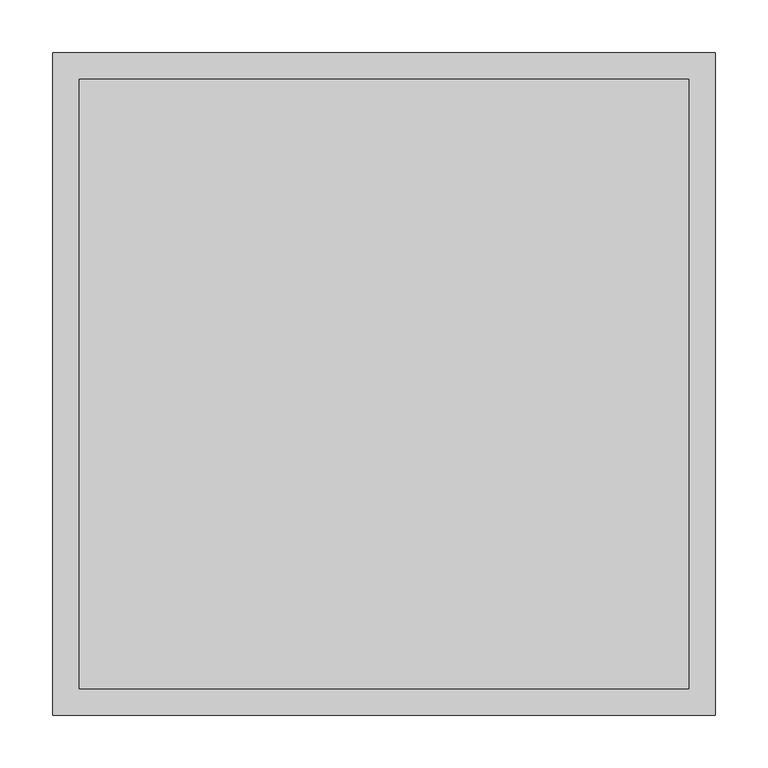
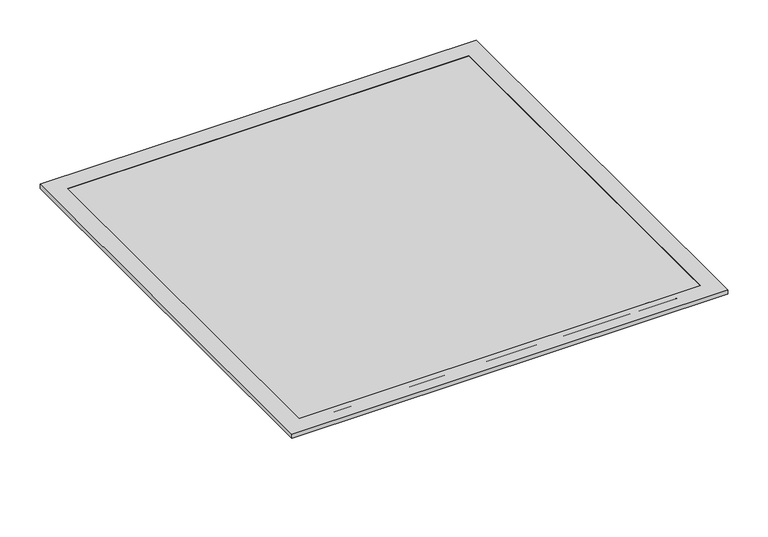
"""IFC4 building model written with IfcOpenShell, lengths in millimetres: air terminal geometry, Titus-Round_Neck_Supply_Diffuser-PCS_Surface_Mount : PCS AA-10_24x24 - 4-WAY."""

import ifcopenshell
import ifcopenshell.guid

model = None  # the IFC model being written
_history = None  # IfcOwnerHistory: only IFC2X3 demands one
_inside = {}  # id of a spatial element -> (the spatial element, [elements in it])
_under = {}  # id of a project, library or spatial element -> (it, [spatial elements below it])
_declared = {}  # id of a project -> (the project, [libraries it declares])
_typed = {}  # id of a type object -> (the type object, [elements of that type])
_made_of = {}  # id of a material, layer set ... -> (it, [elements and type objects made of it])


def new_model(schema):
    """Start an empty IFC model of exactly this schema.

    Asked for "IFC4X3", IfcOpenShell would pick the latest addendum, in which some entities
    have other attributes; the version numbers below select the first issue.
    IFC2X3 requires an IfcOwnerHistory on every rooted entity: one is made here for all.
    """
    global model, _history
    if schema == "IFC4X3":
        model = ifcopenshell.file(schema_version=(4, 3, 0, 0))
    else:
        model = ifcopenshell.file(schema=schema)
    _inside.clear()
    _under.clear()
    _declared.clear()
    _typed.clear()
    _made_of.clear()
    _history = None
    if model.schema == "IFC2X3":
        org = make("IfcOrganization", Name="unknown")
        user = make(
            "IfcPersonAndOrganization",
            ThePerson=make("IfcPerson", FamilyName="unknown"),
            TheOrganization=org,
        )
        app = make(
            "IfcApplication",
            ApplicationDeveloper=org,
            Version="unknown",
            ApplicationFullName="unknown",
            ApplicationIdentifier="unknown",
        )
        _history = make(
            "IfcOwnerHistory",
            OwningUser=user,
            OwningApplication=app,
            ChangeAction="ADDED",
            CreationDate=0,
        )
    return model


def make(cls, **values):
    """One entity of the class cls with the attributes given. An attribute that is None is left unset."""
    return model.create_entity(
        cls, **{name: value for name, value in values.items() if value is not None}
    )


def rooted(cls, **values):
    """An entity with a GlobalId (a new one), such as an element, a storey or a relation."""
    return make(cls, GlobalId=ifcopenshell.guid.new(), OwnerHistory=_history, **values)


def si_unit(unit_type, name, prefix=None):
    """IfcSIUnit, for example si_unit("LENGTHUNIT", "METRE", prefix="MILLI")."""
    return make("IfcSIUnit", UnitType=unit_type, Prefix=prefix, Name=name)


def assignment(units):
    """IfcUnitAssignment: the units of a project."""
    return None if units is None else make("IfcUnitAssignment", Units=units)


def point(xyz):
    """IfcCartesianPoint."""
    return None if xyz is None else make("IfcCartesianPoint", Coordinates=xyz)


def direction(xyz):
    """IfcDirection."""
    return None if xyz is None else make("IfcDirection", DirectionRatios=xyz)


def frame(location, z_axis=None, x_axis=None):
    """IfcAxis2Placement3D, a coordinate frame: its origin and axes. An axis left out is left unset."""
    return make(
        "IfcAxis2Placement3D",
        Location=point(location),
        Axis=direction(z_axis),
        RefDirection=direction(x_axis),
    )


def frame_2d(location, x_axis=None):
    """IfcAxis2Placement2D, a coordinate frame in the plane: its origin and x axis."""
    return make(
        "IfcAxis2Placement2D", Location=point(location), RefDirection=direction(x_axis)
    )


def origin():
    """The frame at (0, 0, 0) with its axes left unset."""
    return frame((0.0, 0.0, 0.0))


def origin_2d():
    """The frame at (0, 0) in the plane with its x axis left unset."""
    return frame_2d((0.0, 0.0))


def place(relative_to, where):
    """IfcLocalPlacement: puts the frame where relative to a parent placement (None: the world)."""
    return make(
        "IfcLocalPlacement", PlacementRelTo=relative_to, RelativePlacement=where
    )


def context(
    kind, dimensions, precision=None, world=None, true_north=None, identifier=None
):
    """IfcGeometricRepresentationContext, for example the 3D "Model" context."""
    return make(
        "IfcGeometricRepresentationContext",
        ContextIdentifier=identifier,
        ContextType=kind,
        CoordinateSpaceDimension=dimensions,
        Precision=precision,
        WorldCoordinateSystem=world,
        TrueNorth=true_north,
    )


def project(units=None, contexts=None):
    """IfcProject with its units and contexts."""
    return rooted(
        "IfcProject",
        Name="project",
        RepresentationContexts=contexts,
        UnitsInContext=assignment(units),
    )


def spatial(cls, under=None, at=None, **own):
    """A site, building, storey or space (cls), placed at a placement, below another one or the project."""
    s = rooted(cls, ObjectPlacement=at, **own)
    if under is not None:
        _under.setdefault(under.id(), (under, []))[1].append(s)
    return s


def polyline(points):
    """IfcPolyline through the points."""
    return make("IfcPolyline", Points=[point(p) for p in points])


def circle_curve(where, radius):
    """IfcCircle in the frame where."""
    return make("IfcCircle", Position=where, Radius=radius)


def trimmed(basis, trim1, trim2, sense, master):
    """IfcTrimmedCurve: the piece of a basis curve between two trims."""
    return make(
        "IfcTrimmedCurve",
        BasisCurve=basis,
        Trim1=trim1,
        Trim2=trim2,
        SenseAgreement=sense,
        MasterRepresentation=master,
    )


def segment(curve, same_sense, transition):
    """IfcCompositeCurveSegment."""
    return make(
        "IfcCompositeCurveSegment",
        Transition=transition,
        SameSense=same_sense,
        ParentCurve=curve,
    )


def composite_curve(segments, self_intersect=None):
    """IfcCompositeCurve: segments joined end to end."""
    return make("IfcCompositeCurve", Segments=segments, SelfIntersect=self_intersect)


def outline(outer, holes=None, kind="AREA"):
    """IfcArbitraryClosedProfileDef: a profile drawn as a closed curve; with holes, ...WithVoids."""
    if holes is None:
        return make("IfcArbitraryClosedProfileDef", ProfileType=kind, OuterCurve=outer)
    return make(
        "IfcArbitraryProfileDefWithVoids",
        ProfileType=kind,
        OuterCurve=outer,
        InnerCurves=holes,
    )


def extrude(swept, where, along, depth):
    """IfcExtrudedAreaSolid: the profile swept, set in the frame where, extruded along a direction by depth."""
    return make(
        "IfcExtrudedAreaSolid",
        SweptArea=swept,
        Position=where,
        ExtrudedDirection=direction(along),
        Depth=depth,
    )


def faces_of(points, faces, orient=None, outer=None):
    """IfcFace entities. A face is a list of loops; a loop is a list of indices into points, from 0.

    orient and outer hold one flag for each loop. By default every Orientation is true, the
    first loop of a face is its IfcFaceOuterBound and the others are IfcFaceBound.
    """
    made = []
    for i, loops in enumerate(faces):
        bounds = []
        for j, loop in enumerate(loops):
            is_outer = j == 0 if outer is None else outer[i][j]
            bounds.append(
                make(
                    "IfcFaceOuterBound" if is_outer else "IfcFaceBound",
                    Bound=make("IfcPolyLoop", Polygon=[points[k] for k in loop]),
                    Orientation=True if orient is None else orient[i][j],
                )
            )
        made.append(make("IfcFace", Bounds=bounds))
    return made


def faceted_brep(points, faces, orient=None, outer=None, voids=None):
    """IfcFacetedBrep: a solid bounded by flat faces; with voids (closed shells), ...WithVoids."""
    shared = [point(p) for p in points]
    hull = make("IfcClosedShell", CfsFaces=faces_of(shared, faces, orient, outer))
    if voids is None:
        return make("IfcFacetedBrep", Outer=hull)
    return make(
        "IfcFacetedBrepWithVoids",
        Outer=hull,
        Voids=[
            make(cls, CfsFaces=faces_of(shared, fs, o, b)) for cls, fs, o, b in voids
        ],
    )


def shape(context_of_items, identifier, shape_type, items):
    """IfcShapeRepresentation: the items that make up one representation, for example the "Body"."""
    return make(
        "IfcShapeRepresentation",
        ContextOfItems=context_of_items,
        RepresentationIdentifier=identifier,
        RepresentationType=shape_type,
        Items=items,
    )


def source(mapping_origin, context_of_items, identifier, shape_type, items):
    """IfcRepresentationMap: a shape defined once, which mapped items show again and again."""
    return make(
        "IfcRepresentationMap",
        MappingOrigin=mapping_origin,
        MappedRepresentation=shape(context_of_items, identifier, shape_type, items),
    )


def transform(
    local_origin,
    x_axis=None,
    y_axis=None,
    z_axis=None,
    scale=None,
    scale2=None,
    scale3=None,
    uniform=True,
):
    """IfcCartesianTransformationOperator3D, or its non-uniform kind. x_axis, y_axis, z_axis: its Axis1, 2, 3."""
    if uniform:
        return make(
            "IfcCartesianTransformationOperator3D",
            Axis1=direction(x_axis),
            Axis2=direction(y_axis),
            LocalOrigin=point(local_origin),
            Scale=scale,
            Axis3=direction(z_axis),
        )
    return make(
        "IfcCartesianTransformationOperator3DnonUniform",
        Axis1=direction(x_axis),
        Axis2=direction(y_axis),
        LocalOrigin=point(local_origin),
        Scale=scale,
        Axis3=direction(z_axis),
        Scale2=scale2,
        Scale3=scale3,
    )


def mapped(mapping_source, mapping_target):
    """IfcMappedItem: shows the shape of a source again, moved by a transform."""
    return make(
        "IfcMappedItem", MappingSource=mapping_source, MappingTarget=mapping_target
    )


def made_of(thing, what):
    """Note that an element or type object is made of a material, layer set ...; save() writes the relation."""
    if what is not None:
        _made_of.setdefault(what.id(), (what, []))[1].append(thing)
    return thing


def element(
    cls,
    number,
    at=None,
    inside=None,
    cuts=None,
    type_object=None,
    material=None,
    context=None,
    identifier="Body",
    shape_type=None,
    held_by="IfcProductDefinitionShape",
    body=None,
    shapes=None,
    **own,
):
    """One element of the class cls, such as IfcWall. Its Tag is "e" and its number.

    at: its placement. inside: the storey or other place that contains it. cuts: it is an
    opening in that element (IfcRelVoidsElement). A single representation is given by context,
    identifier, shape_type and body (its items); several are given by shapes. held_by: the class
    of the entity that holds the representations. save() writes the other relations.
    """
    e = rooted(cls, Tag="e%d" % number, ObjectPlacement=at, **own)
    if body is not None:
        shapes = [shape(context, identifier, shape_type, body)]
    if shapes is not None:
        e.Representation = make(held_by, Representations=shapes)
    if inside is not None:
        _inside.setdefault(inside.id(), (inside, []))[1].append(e)
    if cuts is not None:
        rooted(
            "IfcRelVoidsElement", RelatingBuildingElement=cuts, RelatedOpeningElement=e
        )
    if type_object is not None:
        _typed.setdefault(type_object.id(), (type_object, []))[1].append(e)
    return made_of(e, material)


def aggregate(whole, parts):
    """IfcRelAggregates: a whole, such as a stair, and the parts it consists of."""
    return rooted("IfcRelAggregates", RelatingObject=whole, RelatedObjects=parts)


def save(model, path):
    """Write the relations noted so far, then the file.

    IfcRelAggregates (storeys below a building ...), IfcRelContainedInSpatialStructure (elements
    in a storey), IfcRelDefinesByType, IfcRelAssociatesMaterial and IfcRelDeclares: one each for
    every whole, place, type object, material and project.
    """
    for whole, parts in _under.values():
        aggregate(whole, parts)
    for where, things in _inside.values():
        rooted(
            "IfcRelContainedInSpatialStructure",
            RelatedElements=things,
            RelatingStructure=where,
        )
    for kind, things in _typed.values():
        rooted("IfcRelDefinesByType", RelatedObjects=things, RelatingType=kind)
    for what, things in _made_of.values():
        rooted("IfcRelAssociatesMaterial", RelatedObjects=things, RelatingMaterial=what)
    for by, libraries in _declared.values():
        rooted("IfcRelDeclares", RelatingContext=by, RelatedDefinitions=libraries)
    model.write(path)


def air_terminal_6bbe9ee0(model_context):
    return source(origin(), model_context, "Body", "SolidModel", [
        faceted_brep([(-314.325, 314.325, 0.0), (-314.325, 314.325, 6.35), (314.325, 314.325, 6.35), (314.325, 314.325, 0.0), (-288.925, 288.925, 6.35), (-288.925, 288.925, 5.55625), (288.925, 288.925, 5.55625), (288.925, 288.925, 6.35), (314.325, -314.325, 6.35), (314.325, -314.325, 0.0), (288.925, -288.925, 5.55625), (288.925, -288.925, 6.35), (-314.325, -314.325, 6.35), (-314.325, -314.325, 0.0), (-288.925, -288.925, 5.55625), (-288.925, -288.925, 6.35), (-313.53125, 313.53125, 0.0), (-313.53125, -313.53125, 0.0), (313.53125, -313.53125, 0.0), (313.53125, 313.53125, 0.0), (-313.53125, 313.53125, 5.55625), (313.53125, 313.53125, 5.55625), (313.53125, -313.53125, 5.55625), (-313.53125, -313.53125, 5.55625)], [[[0, 1, 2, 3]], [[4, 5, 6, 7]], [[3, 2, 8, 9]], [[7, 6, 10, 11]], [[9, 8, 12, 13]], [[11, 10, 14, 15]], [[1, 12, 8, 2], [7, 11, 15, 4]], [[13, 12, 1, 0]], [[3, 9, 13, 0], [16, 17, 18, 19]], [[15, 14, 5, 4]], [[20, 16, 19, 21]], [[21, 19, 18, 22]], [[22, 18, 17, 23]], [[23, 17, 16, 20]], [[21, 22, 23, 20], [5, 14, 10, 6]]]),
        faceted_brep([(228.6, 228.6, -50.8), (228.6, -228.6, -50.8), (-228.6, -228.6, -50.8), (-228.6, 228.6, -50.8), (-267.5193548, 267.5193548, -19.05), (267.5193548, 267.5193548, -19.05), (-267.5193548, -267.5193548, -19.05), (267.5193548, -267.5193548, -19.05), (288.925, 288.925, -19.05), (288.925, -288.925, -19.05), (-288.925, -288.925, -19.05), (-288.925, 288.925, -19.05), (-288.925, 288.925, -1.5875), (-288.925, 288.925, 4.7625), (288.925, 288.925, 4.7625), (288.925, 288.925, -1.5875), (-288.925, -288.925, -1.5875), (-288.925, -288.925, 4.7625), (288.925, -288.925, -1.5875), (288.925, -288.925, 4.7625), (301.625, 301.625, 5.55625), (-301.625, 301.625, 5.55625), (-301.625, -301.625, 5.55625), (301.625, -301.625, 5.55625), (301.625, 301.625, 4.7625), (301.625, -301.625, 4.7625), (-301.625, -301.625, 4.7625), (-301.625, 301.625, 4.7625)], [[[0, 1, 2, 3]], [[0, 3, 4, 5]], [[3, 2, 6, 4]], [[2, 1, 7, 6]], [[1, 0, 5, 7]], [[8, 9, 10, 11], [5, 4, 6, 7]], [[8, 11, 12, 13, 14, 15]], [[11, 10, 16, 17, 13, 12]], [[10, 9, 18, 19, 17, 16]], [[9, 8, 15, 14, 19, 18]], [[20, 21, 22, 23]], [[24, 25, 26, 27], [14, 13, 17, 19]], [[21, 20, 24, 27]], [[22, 21, 27, 26]], [[23, 22, 26, 25]], [[20, 23, 25, 24]]]),
        extrude(outline(polyline([(288.925, 288.925), (288.925, -288.925), (-288.925, -288.925), (-288.925, 288.925), (288.925, 288.925)])), frame((0.0, 0.0, 5.55625), z_axis=(0.0, 0.0, 1.0), x_axis=(1.0, 0.0, 0.0)), (0.0, 0.0, 1.0), 0.79375),
        extrude(outline(composite_curve([segment(trimmed(circle_curve(origin_2d(), 125.4125), [point((-125.4125, 0.0))], [point((125.4125, 0.0))], False, "CARTESIAN"), True, "CONTINUOUS"), segment(trimmed(circle_curve(origin_2d(), 125.4125), [point((125.4125, 0.0))], [point((-125.4125, 0.0))], False, "CARTESIAN"), True, "CONTINUOUS")], self_intersect=False), holes=[composite_curve([segment(trimmed(circle_curve(origin_2d(), 123.825), [point((-123.825, 0.0))], [point((123.825, 0.0))], True, "CARTESIAN"), True, "CONTINUOUS"), segment(trimmed(circle_curve(origin_2d(), 123.825), [point((123.825, 0.0))], [point((-123.825, 0.0))], True, "CARTESIAN"), True, "CONTINUOUS")], self_intersect=False)]), frame((0.0, 0.0, -88.9), z_axis=(0.0, 0.0, 1.0), x_axis=(1.0, 0.0, 0.0)), (0.0, 0.0, 1.0), 38.1),
    ])


if __name__ == "__main__":
    model = new_model("IFC4")
    model_context = context("Model", 3, world=origin())
    ifc_project = project(units=[si_unit("LENGTHUNIT", "METRE", prefix="MILLI")], contexts=[model_context])
    site = spatial("IfcSite", under=ifc_project)
    building = spatial("IfcBuilding", under=site)
    placement = place(None, origin())
    air_terminal_shape = air_terminal_6bbe9ee0(model_context)
    element("IfcAirTerminal", 1, ObjectType="Titus-Round_Neck_Supply_Diffuser-PCS_Surface_Mount : PCS AA-10_24x24 - 4-WAY", at=placement, inside=building, context=model_context, shape_type="MappedRepresentation", body=[
        mapped(air_terminal_shape, transform((0.0, 0.0, 0.0), x_axis=(1.0, 0.0, 0.0), y_axis=(0.0, 1.0, 0.0), z_axis=(0.0, 0.0, 1.0))),
    ])
    save(model, "model.ifc")
